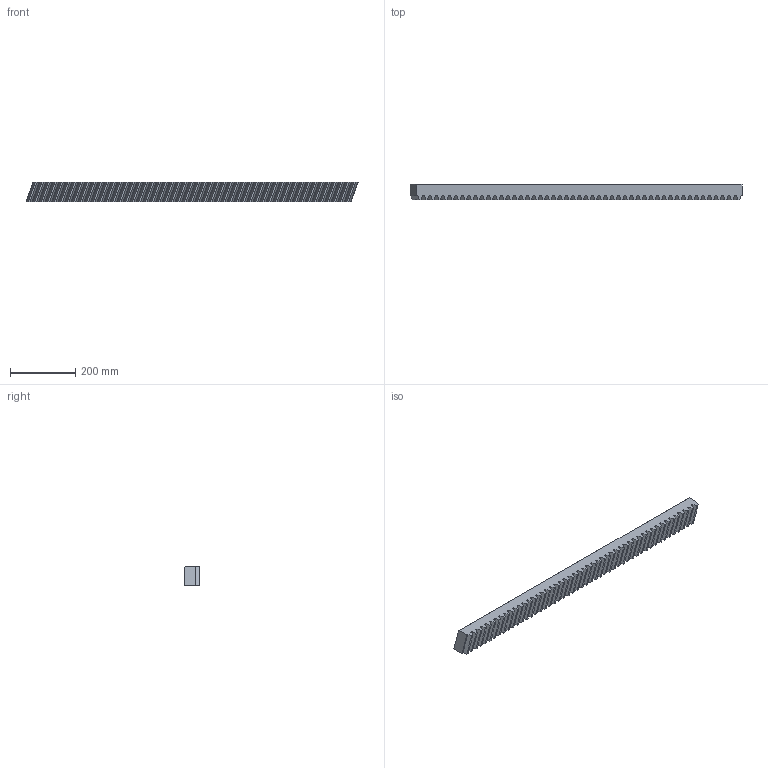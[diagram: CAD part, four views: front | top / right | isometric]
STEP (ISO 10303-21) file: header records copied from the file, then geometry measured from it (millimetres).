
FILE_DESCRIPTION(/* description */ (''),/* implementation_level */ '2;1');
FILE_NAME(/* name */ 'BL-1HR29R060100.ipt',/* time_stamp */ '2019-06-18T14:27:24+02:00',/* author */ ('VĂ©gh MĂˇtĂ©'),/* organization */ ('Bearing Kft'),/* preprocessor_version */ 'ST-DEVELOPER v16.7',/* originating_system */ 'DEX',/* authorisation */ $);
FILE_SCHEMA (('AUTOMOTIVE_DESIGN {1 0 10303 214 3 1 1}'));
Length unit declared in the file: millimetre
Products named in the file (1): BL-1HR29R060100.ipt
Bounding box: 1021.28 x 49 x 60 mm (x, y, z)
Volume: 2552566.3 mm3; surface area: 267968.3 mm2
Topology: 1 solids, 1 shells, 636 faces, 1728 edges, 1152 vertices
Faces by surface type: plane 454, bspline 181, cylinder 1
Entity records: 25691 total; most frequent: CARTESIAN_POINT 10575, ORIENTED_EDGE 3434, DIRECTION 2469, EDGE_CURVE 1717, LINE 1353, VECTOR 1353, VERTEX_POINT 1152, EDGE_LOOP 705
